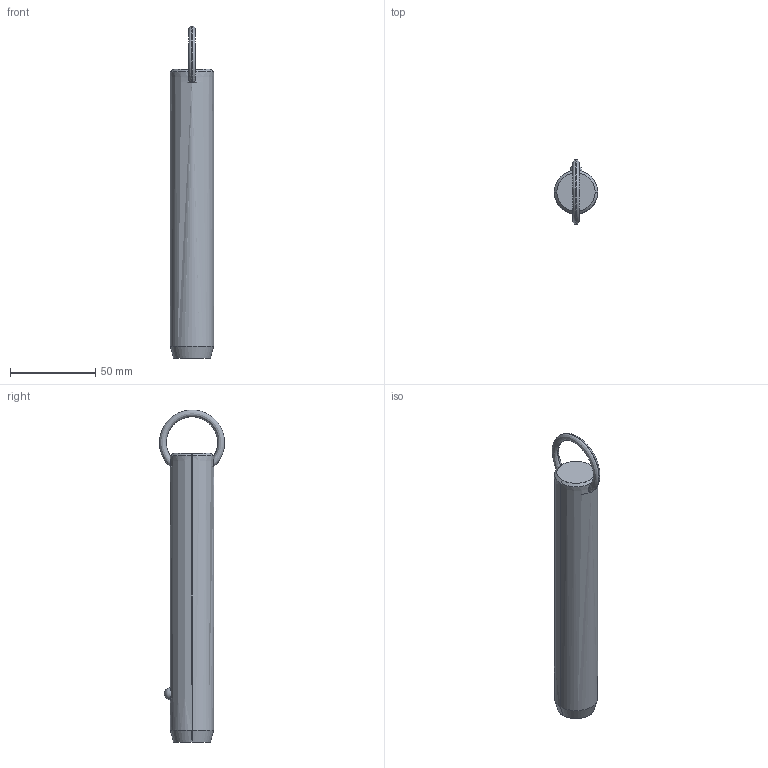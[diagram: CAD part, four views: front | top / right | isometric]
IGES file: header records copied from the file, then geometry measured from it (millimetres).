
Start section: SolidWorks IGES file using analytic representation for surfaces
Global section: file name: C:\Users\liam_\OneDrive\Documents\WORK\Work for WixRoyd\Job Files\J-00019 - Matt Davis CAD Checking\04. CAD Drawings\automotion20190605\P1250.2_v2\P1250.2_v2_20190729_IGES\P1250.100-490.igs; native system: SolidWorks 2017; preprocessor: SolidWorks 2017; author: liam_; date: 190730.174105; units: millimetre
Bounding box: 25.4 x 38.1 x 194.3 mm (x, y, z)
Surface area: 15250.9 mm2 (no closed solid volume)
Topology: 0 solids, 0 shells, 12 faces, 298 edges, 296 vertices
Faces by surface type: revolution 8, bspline 4
